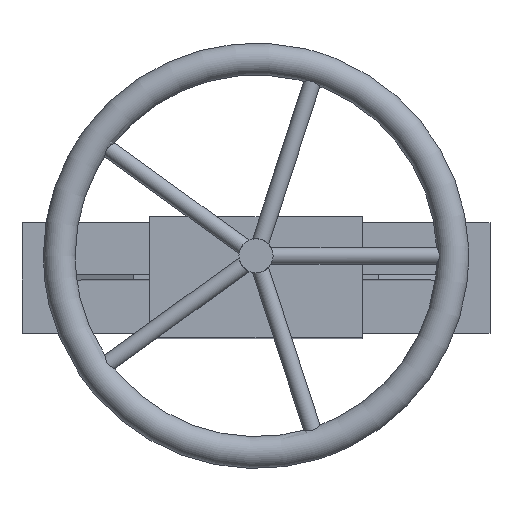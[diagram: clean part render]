
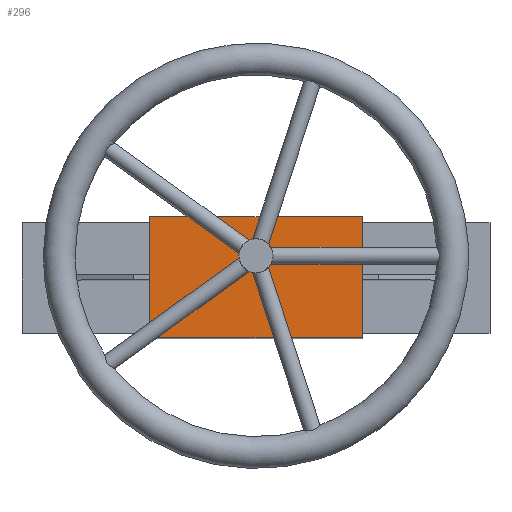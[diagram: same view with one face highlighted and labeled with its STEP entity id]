
A CAD part, top view. The second image highlights one B-rep face of the part: STEP entity #296.
In plain terms, the highlighted planar face has unit normal (0, 0, 1).
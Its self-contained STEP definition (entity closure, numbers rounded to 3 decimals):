
#296=ADVANCED_FACE('',(#1527,#1529),#1531,.T.);
#1527=FACE_BOUND('',#1528,.T.);
#1528=EDGE_LOOP('',(#2591,#2592,#2593,#2594));
#1529=FACE_BOUND('',#1530,.T.);
#1530=EDGE_LOOP('',(#2595));
#1531=PLANE('',#1532);
#1532=AXIS2_PLACEMENT_3D('',#1533,#1534,#1535);
#1533=CARTESIAN_POINT('',(-100.,57.,830.));
#1534=DIRECTION('',(-0.,0.,1.));
#1535=DIRECTION('',(0.,-1.,0.));
#2591=ORIENTED_EDGE('',*,*,#3163,.T.);
#2592=ORIENTED_EDGE('',*,*,#3177,.T.);
#2593=ORIENTED_EDGE('',*,*,#3168,.F.);
#2594=ORIENTED_EDGE('',*,*,#3178,.F.);
#2595=ORIENTED_EDGE('',*,*,#3179,.T.);
#3163=EDGE_CURVE('',#3541,#3539,#3542,.T.);
#3168=EDGE_CURVE('',#3548,#3550,#3551,.T.);
#3177=EDGE_CURVE('',#3539,#3550,#3565,.T.);
#3178=EDGE_CURVE('',#3541,#3548,#3566,.T.);
#3179=EDGE_CURVE('',#3567,#3567,#3568,.T.);
#3539=VERTEX_POINT('',#4249);
#3541=VERTEX_POINT('',#4253);
#3542=LINE('',#4254,#4255);
#3548=VERTEX_POINT('',#4268);
#3550=VERTEX_POINT('',#4272);
#3551=LINE('',#4273,#4274);
#3565=LINE('',#4305,#4306);
#3566=LINE('',#4308,#4309);
#3567=VERTEX_POINT('',#4311);
#3568=CIRCLE('',#4312,16.);
#4249=CARTESIAN_POINT('',(-100.,-57.,830.));
#4253=CARTESIAN_POINT('',(-100.,57.,830.));
#4254=CARTESIAN_POINT('',(-100.,57.,830.));
#4255=VECTOR('',#4256,1.);
#4256=DIRECTION('',(0.,-1.,0.));
#4268=CARTESIAN_POINT('',(100.,57.,830.));
#4272=CARTESIAN_POINT('',(100.,-57.,830.));
#4273=CARTESIAN_POINT('',(100.,57.,830.));
#4274=VECTOR('',#4275,1.);
#4275=DIRECTION('',(0.,-1.,0.));
#4305=CARTESIAN_POINT('',(-100.,-57.,830.));
#4306=VECTOR('',#4307,1.);
#4307=DIRECTION('',(1.,0.,0.));
#4308=CARTESIAN_POINT('',(-100.,57.,830.));
#4309=VECTOR('',#4310,1.);
#4310=DIRECTION('',(1.,0.,0.));
#4311=CARTESIAN_POINT('',(0.,36.,830.));
#4312=AXIS2_PLACEMENT_3D('',#4313,#4314,#4315);
#4313=CARTESIAN_POINT('',(0.,20.,830.));
#4314=DIRECTION('',(0.,-0.,-1.));
#4315=DIRECTION('',(0.,1.,-0.));
